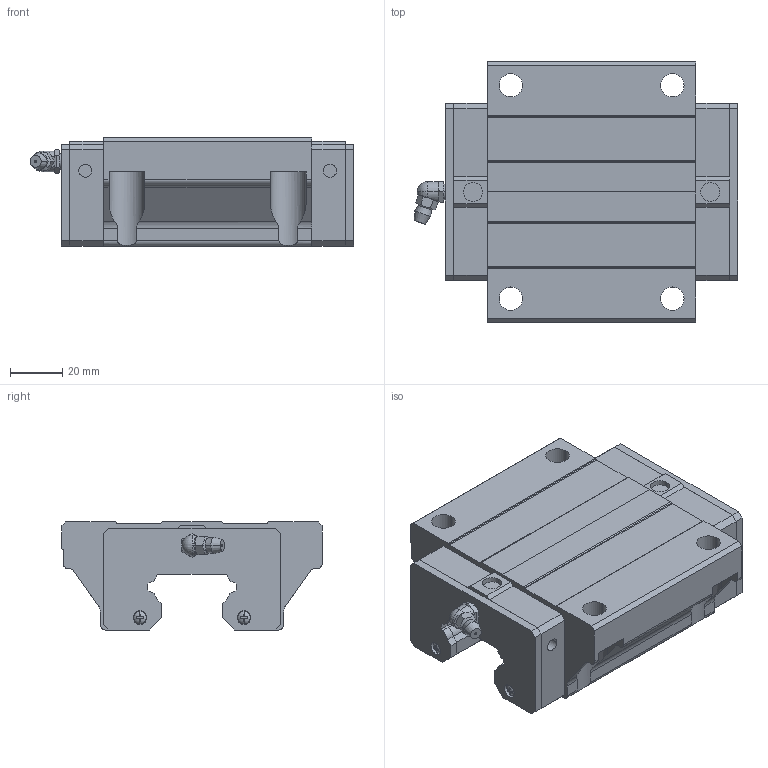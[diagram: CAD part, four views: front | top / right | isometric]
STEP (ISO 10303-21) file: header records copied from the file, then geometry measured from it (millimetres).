
FILE_DESCRIPTION(('starvars output'),'2;1');
FILE_NAME('cv20190626222323000041250.stp','22:23:23 2019/06/26',( 'Thomas Industrial Network Germany GmbH'),( 'Thomas Industrial Network Germany GmbH'),'unknown preprocess','ACIS' ,'unknown authorization');
FILE_SCHEMA(('CONFIG_CONTROL_DESIGN {UNKNOWN IMPLEMENTATION LEVEL}'));
Length unit declared in the file: millimetre
Products named in the file (10): PRODUCT_ID_1; PRODUCT_ID_2; PRODUCT_ID_3; PRODUCT_ID_4; PRODUCT_ID_5; PRODUCT_ID_6; PRODUCT_ID_7; PRODUCT_ID_8; PRODUCT_ID_9; PRODUCT_ID_10
Bounding box: 124.4 x 100 x 41.5 mm (x, y, z)
Volume: 294636.2 mm3; surface area: 59686.1 mm2
Topology: 10 solids, 10 shells, 399 faces, 1058 edges, 688 vertices
Faces by surface type: plane 263, cylinder 84, cone 40, sphere 12
Entity records: 12093 total; most frequent: CARTESIAN_POINT 2119, ORIENTED_EDGE 2108, DIRECTION 1637, EDGE_CURVE 1054, VERTEX_POINT 688, VECTOR 669, LINE 669, AXIS2_PLACEMENT_3D 484
